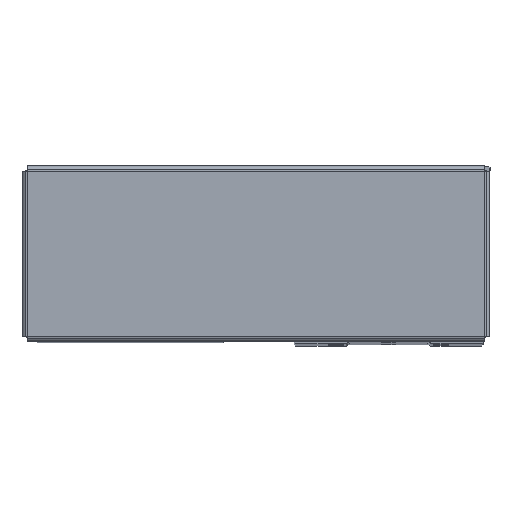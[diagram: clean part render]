
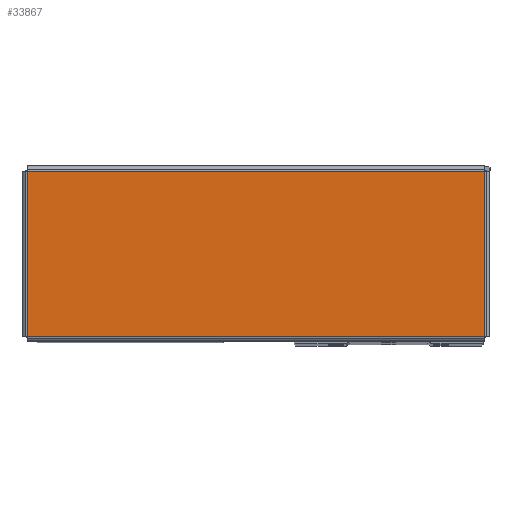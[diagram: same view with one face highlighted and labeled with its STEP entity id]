
A CAD part, top view. The second image highlights one B-rep face of the part: STEP entity #33867.
In plain terms, the highlighted planar face has unit normal (0, 0, 1).
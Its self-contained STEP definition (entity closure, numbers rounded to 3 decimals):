
#218 = VECTOR ( 'NONE', #43916, 1000. ) ;
#569 = VECTOR ( 'NONE', #24501, 1000. ) ;
#4317 = ORIENTED_EDGE ( 'NONE', *, *, #7192, .T. ) ;
#6481 = CARTESIAN_POINT ( 'NONE',  ( 28.5, -8.552, 280.5 ) ) ;
#6876 = ORIENTED_EDGE ( 'NONE', *, *, #20727, .T. ) ;
#7192 = EDGE_CURVE ( 'NONE', #21344, #12551, #21668, .T. ) ;
#7794 = LINE ( 'NONE', #25805, #218 ) ;
#10289 = CARTESIAN_POINT ( 'NONE',  ( -39.25, 16.448, 280.5 ) ) ;
#11722 = CARTESIAN_POINT ( 'NONE',  ( 28.5, 40.948, 280.5 ) ) ;
#12072 = EDGE_CURVE ( 'NONE', #26248, #55414, #47061, .T. ) ;
#12330 = DIRECTION ( 'NONE',  ( -1., 0., 0. ) ) ;
#12551 = VERTEX_POINT ( 'NONE', #34191 ) ;
#12958 = ORIENTED_EDGE ( 'NONE', *, *, #12072, .T. ) ;
#19796 = CARTESIAN_POINT ( 'NONE',  ( -107., 40.948, 280.5 ) ) ;
#20727 = EDGE_CURVE ( 'NONE', #12551, #26248, #7794, .T. ) ;
#21344 = VERTEX_POINT ( 'NONE', #19796 ) ;
#21668 = LINE ( 'NONE', #39772, #39386 ) ;
#22556 = CARTESIAN_POINT ( 'NONE',  ( 28.5, -8.052, 280.5 ) ) ;
#24501 = DIRECTION ( 'NONE',  ( 0., 1., 0. ) ) ;
#25805 = CARTESIAN_POINT ( 'NONE',  ( -107., -8.052, 280.5 ) ) ;
#26248 = VERTEX_POINT ( 'NONE', #22556 ) ;
#28313 = DIRECTION ( 'NONE',  ( 0., 0., -1. ) ) ;
#32773 = FACE_OUTER_BOUND ( 'NONE', #40779, .T. ) ;
#33867 = ADVANCED_FACE ( 'NONE', ( #32773 ), #50880, .F. ) ;
#34191 = CARTESIAN_POINT ( 'NONE',  ( -107., -8.052, 280.5 ) ) ;
#34828 = LINE ( 'NONE', #52924, #54755 ) ;
#39386 = VECTOR ( 'NONE', #57844, 1000. ) ;
#39772 = CARTESIAN_POINT ( 'NONE',  ( -107., -8.552, 280.5 ) ) ;
#39879 = ORIENTED_EDGE ( 'NONE', *, *, #47313, .T. ) ;
#40779 = EDGE_LOOP ( 'NONE', ( #6876, #12958, #39879, #4317 ) ) ;
#43916 = DIRECTION ( 'NONE',  ( 1., 0., 0. ) ) ;
#46427 = DIRECTION ( 'NONE',  ( -1., 0., 0. ) ) ;
#47061 = LINE ( 'NONE', #6481, #569 ) ;
#47313 = EDGE_CURVE ( 'NONE', #55414, #21344, #34828, .T. ) ;
#50880 = PLANE ( 'NONE',  #51559 ) ;
#51559 = AXIS2_PLACEMENT_3D ( 'NONE', #10289, #28313, #46427 ) ;
#52924 = CARTESIAN_POINT ( 'NONE',  ( 28.5, 40.948, 280.5 ) ) ;
#54755 = VECTOR ( 'NONE', #12330, 1000. ) ;
#55414 = VERTEX_POINT ( 'NONE', #11722 ) ;
#57844 = DIRECTION ( 'NONE',  ( 0., -1., 0. ) ) ;
